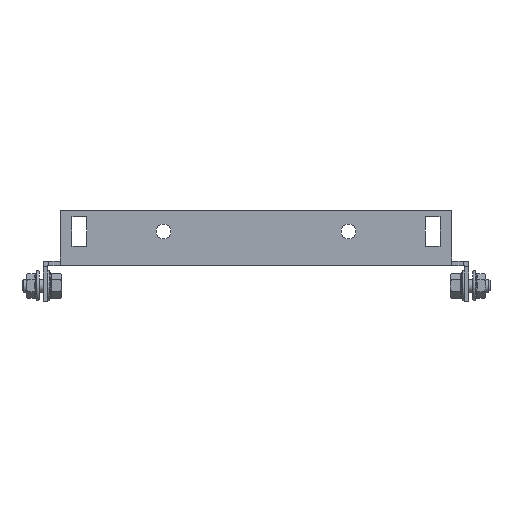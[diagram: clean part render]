
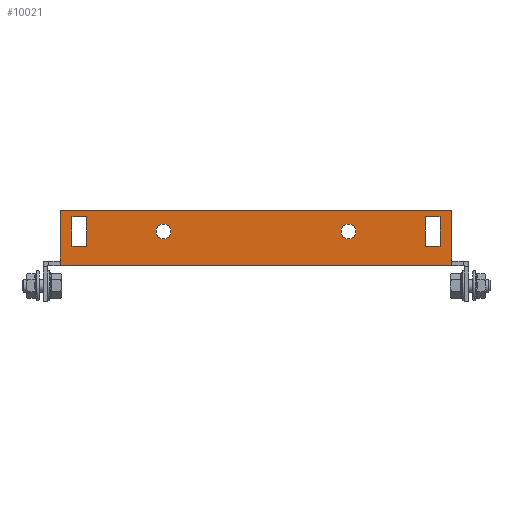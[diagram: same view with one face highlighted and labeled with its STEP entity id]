
A CAD part, front view. The second image highlights one B-rep face of the part: STEP entity #10021.
In plain terms, the highlighted planar face has unit normal (0, -1, 0).
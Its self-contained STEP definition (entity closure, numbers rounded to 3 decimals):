
#8276 = VERTEX_POINT('',#8277);
#8277 = CARTESIAN_POINT('',(92.,-134.5,0.));
#8283 = EDGE_CURVE('',#8284,#8276,#8286,.T.);
#8284 = VERTEX_POINT('',#8285);
#8285 = CARTESIAN_POINT('',(-92.,-134.5,0.));
#8286 = LINE('',#8287,#8288);
#8287 = CARTESIAN_POINT('',(-92.,-134.5,0.));
#8288 = VECTOR('',#8289,1.);
#8289 = DIRECTION('',(1.,-0.,-0.));
#9900 = VERTEX_POINT('',#9901);
#9901 = CARTESIAN_POINT('',(-92.,-134.5,2.6));
#9916 = EDGE_CURVE('',#9900,#8284,#9917,.T.);
#9917 = LINE('',#9918,#9919);
#9918 = CARTESIAN_POINT('',(-92.,-134.5,2.6));
#9919 = VECTOR('',#9920,1.);
#9920 = DIRECTION('',(0.,0.,-1.));
#9940 = VERTEX_POINT('',#9941);
#9941 = CARTESIAN_POINT('',(92.,-134.5,2.6));
#9947 = EDGE_CURVE('',#9940,#8276,#9948,.T.);
#9948 = LINE('',#9949,#9950);
#9949 = CARTESIAN_POINT('',(92.,-134.5,2.));
#9950 = VECTOR('',#9951,1.);
#9951 = DIRECTION('',(-0.,0.,-1.));
#9973 = VERTEX_POINT('',#9974);
#9974 = CARTESIAN_POINT('',(92.,-134.5,26.));
#9980 = EDGE_CURVE('',#9940,#9973,#9981,.T.);
#9981 = LINE('',#9982,#9983);
#9982 = CARTESIAN_POINT('',(92.,-134.5,26.));
#9983 = VECTOR('',#9984,1.);
#9984 = DIRECTION('',(0.,0.,1.));
#9995 = EDGE_CURVE('',#9996,#9900,#9998,.T.);
#9996 = VERTEX_POINT('',#9997);
#9997 = CARTESIAN_POINT('',(-92.,-134.5,26.));
#9998 = LINE('',#9999,#10000);
#9999 = CARTESIAN_POINT('',(-92.,-134.5,2.));
#10000 = VECTOR('',#10001,1.);
#10001 = DIRECTION('',(0.,0.,-1.));
#10021 = ADVANCED_FACE('',(#10022,#10056,#10067,#10078,#10112),#10125,
  .F.);
#10022 = FACE_BOUND('',#10023,.T.);
#10023 = EDGE_LOOP('',(#10024,#10034,#10042,#10050));
#10024 = ORIENTED_EDGE('',*,*,#10025,.F.);
#10025 = EDGE_CURVE('',#10026,#10028,#10030,.T.);
#10026 = VERTEX_POINT('',#10027);
#10027 = CARTESIAN_POINT('',(86.5,-134.5,9.));
#10028 = VERTEX_POINT('',#10029);
#10029 = CARTESIAN_POINT('',(86.5,-134.5,23.));
#10030 = LINE('',#10031,#10032);
#10031 = CARTESIAN_POINT('',(86.5,-134.5,23.));
#10032 = VECTOR('',#10033,1.);
#10033 = DIRECTION('',(-0.,0.,1.));
#10034 = ORIENTED_EDGE('',*,*,#10035,.F.);
#10035 = EDGE_CURVE('',#10036,#10026,#10038,.T.);
#10036 = VERTEX_POINT('',#10037);
#10037 = CARTESIAN_POINT('',(79.5,-134.5,9.));
#10038 = LINE('',#10039,#10040);
#10039 = CARTESIAN_POINT('',(86.5,-134.5,9.));
#10040 = VECTOR('',#10041,1.);
#10041 = DIRECTION('',(1.,-0.,-0.));
#10042 = ORIENTED_EDGE('',*,*,#10043,.F.);
#10043 = EDGE_CURVE('',#10044,#10036,#10046,.T.);
#10044 = VERTEX_POINT('',#10045);
#10045 = CARTESIAN_POINT('',(79.5,-134.5,23.));
#10046 = LINE('',#10047,#10048);
#10047 = CARTESIAN_POINT('',(79.5,-134.5,9.));
#10048 = VECTOR('',#10049,1.);
#10049 = DIRECTION('',(-0.,0.,-1.));
#10050 = ORIENTED_EDGE('',*,*,#10051,.F.);
#10051 = EDGE_CURVE('',#10028,#10044,#10052,.T.);
#10052 = LINE('',#10053,#10054);
#10053 = CARTESIAN_POINT('',(79.5,-134.5,23.));
#10054 = VECTOR('',#10055,1.);
#10055 = DIRECTION('',(-1.,-0.,-0.));
#10056 = FACE_BOUND('',#10057,.T.);
#10057 = EDGE_LOOP('',(#10058));
#10058 = ORIENTED_EDGE('',*,*,#10059,.F.);
#10059 = EDGE_CURVE('',#10060,#10060,#10062,.T.);
#10060 = VERTEX_POINT('',#10061);
#10061 = CARTESIAN_POINT('',(43.5,-134.5,19.5));
#10062 = CIRCLE('',#10063,3.5);
#10063 = AXIS2_PLACEMENT_3D('',#10064,#10065,#10066);
#10064 = CARTESIAN_POINT('',(43.5,-134.5,16.));
#10065 = DIRECTION('',(0.,-1.,0.));
#10066 = DIRECTION('',(0.,0.,1.));
#10067 = FACE_BOUND('',#10068,.T.);
#10068 = EDGE_LOOP('',(#10069));
#10069 = ORIENTED_EDGE('',*,*,#10070,.F.);
#10070 = EDGE_CURVE('',#10071,#10071,#10073,.T.);
#10071 = VERTEX_POINT('',#10072);
#10072 = CARTESIAN_POINT('',(-43.5,-134.5,12.5));
#10073 = CIRCLE('',#10074,3.5);
#10074 = AXIS2_PLACEMENT_3D('',#10075,#10076,#10077);
#10075 = CARTESIAN_POINT('',(-43.5,-134.5,16.));
#10076 = DIRECTION('',(0.,-1.,0.));
#10077 = DIRECTION('',(0.,0.,-1.));
#10078 = FACE_BOUND('',#10079,.T.);
#10079 = EDGE_LOOP('',(#10080,#10090,#10098,#10106));
#10080 = ORIENTED_EDGE('',*,*,#10081,.F.);
#10081 = EDGE_CURVE('',#10082,#10084,#10086,.T.);
#10082 = VERTEX_POINT('',#10083);
#10083 = CARTESIAN_POINT('',(-86.5,-134.5,23.));
#10084 = VERTEX_POINT('',#10085);
#10085 = CARTESIAN_POINT('',(-86.5,-134.5,9.));
#10086 = LINE('',#10087,#10088);
#10087 = CARTESIAN_POINT('',(-86.5,-134.5,9.));
#10088 = VECTOR('',#10089,1.);
#10089 = DIRECTION('',(-0.,0.,-1.));
#10090 = ORIENTED_EDGE('',*,*,#10091,.F.);
#10091 = EDGE_CURVE('',#10092,#10082,#10094,.T.);
#10092 = VERTEX_POINT('',#10093);
#10093 = CARTESIAN_POINT('',(-79.5,-134.5,23.));
#10094 = LINE('',#10095,#10096);
#10095 = CARTESIAN_POINT('',(-86.5,-134.5,23.));
#10096 = VECTOR('',#10097,1.);
#10097 = DIRECTION('',(-1.,-0.,-0.));
#10098 = ORIENTED_EDGE('',*,*,#10099,.F.);
#10099 = EDGE_CURVE('',#10100,#10092,#10102,.T.);
#10100 = VERTEX_POINT('',#10101);
#10101 = CARTESIAN_POINT('',(-79.5,-134.5,9.));
#10102 = LINE('',#10103,#10104);
#10103 = CARTESIAN_POINT('',(-79.5,-134.5,23.));
#10104 = VECTOR('',#10105,1.);
#10105 = DIRECTION('',(-0.,0.,1.));
#10106 = ORIENTED_EDGE('',*,*,#10107,.F.);
#10107 = EDGE_CURVE('',#10084,#10100,#10108,.T.);
#10108 = LINE('',#10109,#10110);
#10109 = CARTESIAN_POINT('',(-79.5,-134.5,9.));
#10110 = VECTOR('',#10111,1.);
#10111 = DIRECTION('',(1.,-0.,-0.));
#10112 = FACE_BOUND('',#10113,.T.);
#10113 = EDGE_LOOP('',(#10114,#10115,#10116,#10117,#10118,#10119));
#10114 = ORIENTED_EDGE('',*,*,#9995,.T.);
#10115 = ORIENTED_EDGE('',*,*,#9916,.T.);
#10116 = ORIENTED_EDGE('',*,*,#8283,.T.);
#10117 = ORIENTED_EDGE('',*,*,#9947,.F.);
#10118 = ORIENTED_EDGE('',*,*,#9980,.T.);
#10119 = ORIENTED_EDGE('',*,*,#10120,.T.);
#10120 = EDGE_CURVE('',#9973,#9996,#10121,.T.);
#10121 = LINE('',#10122,#10123);
#10122 = CARTESIAN_POINT('',(-92.,-134.5,26.));
#10123 = VECTOR('',#10124,1.);
#10124 = DIRECTION('',(-1.,-0.,-0.));
#10125 = PLANE('',#10126);
#10126 = AXIS2_PLACEMENT_3D('',#10127,#10128,#10129);
#10127 = CARTESIAN_POINT('',(92.,-134.5,2.));
#10128 = DIRECTION('',(-0.,1.,0.));
#10129 = DIRECTION('',(0.,0.,1.));
